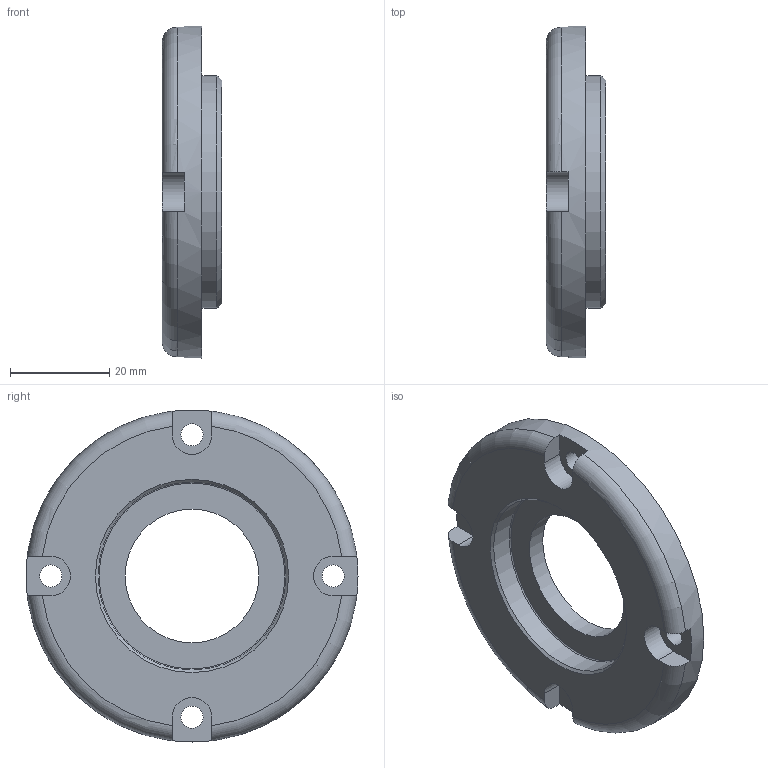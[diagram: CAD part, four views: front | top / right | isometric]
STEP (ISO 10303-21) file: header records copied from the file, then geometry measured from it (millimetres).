
FILE_DESCRIPTION(/* description */ (''),/* implementation_level */ '2;1');
FILE_NAME(/* name */ '',/* time_stamp */ '2025-07-11T16:41:28+09:00',/* author */ ('jhkim'),/* organization */ (''),/* preprocessor_version */ 'ST-DEVELOPER v20.1',/* originating_system */ 'Autodesk Inventor 2026',/* authorisation */ '');
FILE_SCHEMA (('AUTOMOTIVE_DESIGN { 1 0 10303 214 3 1 1 }'));
Length unit declared in the file: millimetre
Products named in the file (1): 커버
Bounding box: 12 x 67 x 67 mm (x, y, z)
Volume: 21930 mm3; surface area: 9268.9 mm2
Topology: 1 solids, 1 shells, 37 faces, 96 edges, 64 vertices
Faces by surface type: plane 17, cylinder 12, torus 6, cone 2
Full cylindrical faces by diameter (mm): 4.5 x4, 27 x1, 38 x1, 47 x1, 67 x1
Entity records: 1275 total; most frequent: CARTESIAN_POINT 270, DIRECTION 210, ORIENTED_EDGE 192, EDGE_CURVE 96, AXIS2_PLACEMENT_3D 84, VERTEX_POINT 64, EDGE_LOOP 50, CIRCLE 46
